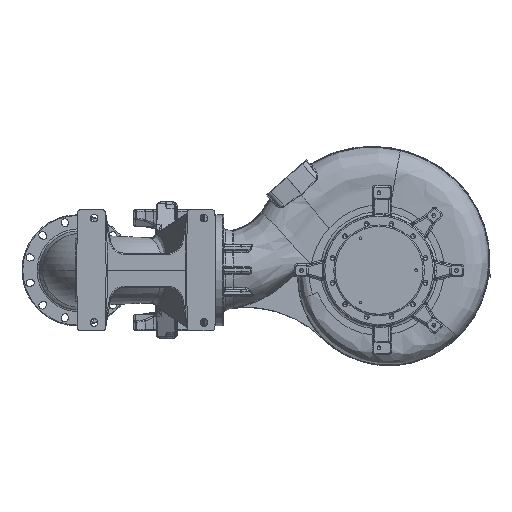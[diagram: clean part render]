
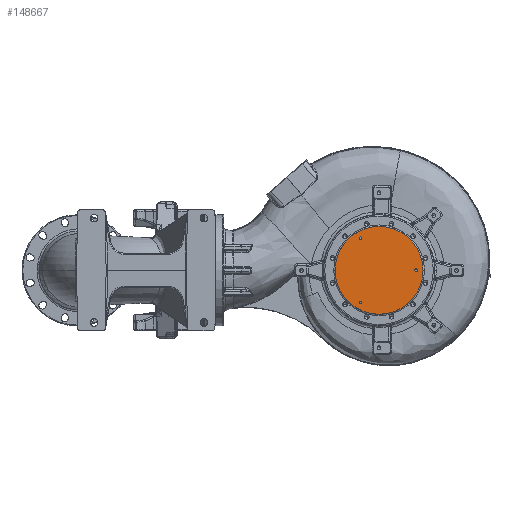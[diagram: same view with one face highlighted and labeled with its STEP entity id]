
A CAD part, front view. The second image highlights one B-rep face of the part: STEP entity #148667.
In plain terms, the highlighted planar face has unit normal (0, -1, 0).
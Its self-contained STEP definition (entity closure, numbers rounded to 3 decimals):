
#593 = DIRECTION ( 'NONE',  ( 0., -1., 0. ) ) ;
#596 = CARTESIAN_POINT ( 'NONE',  ( 527.4, 0., -116.913 ) ) ;
#4022 = CARTESIAN_POINT ( 'NONE',  ( 740.1, 0., 0. ) ) ;
#10768 = EDGE_CURVE ( 'NONE', #26830, #158697, #197989, .T. ) ;
#11552 = DIRECTION ( 'NONE',  ( -1., 0., 0. ) ) ;
#20709 = ORIENTED_EDGE ( 'NONE', *, *, #76788, .T. ) ;
#26443 = CARTESIAN_POINT ( 'NONE',  ( 600., 0., 0. ) ) ;
#26830 = VERTEX_POINT ( 'NONE', #315228 ) ;
#27140 = VERTEX_POINT ( 'NONE', #270318 ) ;
#32034 = AXIS2_PLACEMENT_3D ( 'NONE', #94625, #273206, #120336 ) ;
#34213 = CIRCLE ( 'NONE', #104488, 5.1 ) ;
#36589 = EDGE_CURVE ( 'NONE', #178365, #27140, #152255, .T. ) ;
#44359 = EDGE_CURVE ( 'NONE', #158697, #26830, #217571, .T. ) ;
#48149 = DIRECTION ( 'NONE',  ( 0., -1., 0. ) ) ;
#51990 = EDGE_CURVE ( 'NONE', #270166, #330467, #34213, .T. ) ;
#52080 = DIRECTION ( 'NONE',  ( -1., 0., 0. ) ) ;
#57575 = AXIS2_PLACEMENT_3D ( 'NONE', #73622, #252223, #99334 ) ;
#57747 = FACE_BOUND ( 'NONE', #318022, .T. ) ;
#66406 = AXIS2_PLACEMENT_3D ( 'NONE', #105113, #283750, #130832 ) ;
#73622 = CARTESIAN_POINT ( 'NONE',  ( 532.5, 0., 116.913 ) ) ;
#76788 = EDGE_CURVE ( 'NONE', #96771, #162223, #302255, .T. ) ;
#77231 = PLANE ( 'NONE',  #66406 ) ;
#79197 = AXIS2_PLACEMENT_3D ( 'NONE', #26443, #204985, #52080 ) ;
#89758 = AXIS2_PLACEMENT_3D ( 'NONE', #128315, #306978, #153930 ) ;
#89760 = DIRECTION ( 'NONE',  ( 0., -1., 0. ) ) ;
#90951 = EDGE_CURVE ( 'NONE', #330467, #270166, #186831, .T. ) ;
#94625 = CARTESIAN_POINT ( 'NONE',  ( 735., 0., 0. ) ) ;
#96342 = EDGE_LOOP ( 'NONE', ( #229126, #293645 ) ) ;
#96771 = VERTEX_POINT ( 'NONE', #155198 ) ;
#98164 = CIRCLE ( 'NONE', #79197, 160. ) ;
#99334 = DIRECTION ( 'NONE',  ( -1., 0., 0. ) ) ;
#104488 = AXIS2_PLACEMENT_3D ( 'NONE', #242734, #89760, #268398 ) ;
#105113 = CARTESIAN_POINT ( 'NONE',  ( 600., 0., 0. ) ) ;
#109224 = ORIENTED_EDGE ( 'NONE', *, *, #327248, .T. ) ;
#120336 = DIRECTION ( 'NONE',  ( -1., 0., 0. ) ) ;
#125664 = FACE_BOUND ( 'NONE', #96342, .T. ) ;
#128315 = CARTESIAN_POINT ( 'NONE',  ( 600., 0., 0. ) ) ;
#130832 = DIRECTION ( 'NONE',  ( -1., 0., 0. ) ) ;
#131649 = CIRCLE ( 'NONE', #329248, 5.1 ) ;
#148667 = ADVANCED_FACE ( 'NONE', ( #57747, #321387, #125664, #253399 ), #77231, .T. ) ;
#152255 = CIRCLE ( 'NONE', #158283, 5.1 ) ;
#153378 = CARTESIAN_POINT ( 'NONE',  ( 532.5, 0., 116.913 ) ) ;
#153930 = DIRECTION ( 'NONE',  ( -1., 0., 0. ) ) ;
#155198 = CARTESIAN_POINT ( 'NONE',  ( 440., 0., 0. ) ) ;
#155835 = CARTESIAN_POINT ( 'NONE',  ( 527.4, 0., 116.913 ) ) ;
#158283 = AXIS2_PLACEMENT_3D ( 'NONE', #201010, #48149, #226676 ) ;
#158697 = VERTEX_POINT ( 'NONE', #155835 ) ;
#162223 = VERTEX_POINT ( 'NONE', #203469 ) ;
#164401 = DIRECTION ( 'NONE',  ( 0., -1., 0. ) ) ;
#178365 = VERTEX_POINT ( 'NONE', #596 ) ;
#179062 = DIRECTION ( 'NONE',  ( -1., 0., 0. ) ) ;
#186831 = CIRCLE ( 'NONE', #32034, 5.1 ) ;
#197989 = CIRCLE ( 'NONE', #277975, 5.1 ) ;
#200614 = EDGE_CURVE ( 'NONE', #27140, #178365, #131649, .T. ) ;
#201010 = CARTESIAN_POINT ( 'NONE',  ( 532.5, 0., -116.913 ) ) ;
#201685 = ORIENTED_EDGE ( 'NONE', *, *, #36589, .F. ) ;
#203469 = CARTESIAN_POINT ( 'NONE',  ( 760., 0., 0. ) ) ;
#204985 = DIRECTION ( 'NONE',  ( 0., -1., 0. ) ) ;
#205558 = EDGE_LOOP ( 'NONE', ( #20709, #109224 ) ) ;
#215748 = EDGE_LOOP ( 'NONE', ( #310352, #263503 ) ) ;
#217571 = CIRCLE ( 'NONE', #57575, 5.1 ) ;
#226676 = DIRECTION ( 'NONE',  ( -1., 0., 0. ) ) ;
#229126 = ORIENTED_EDGE ( 'NONE', *, *, #51990, .F. ) ;
#242734 = CARTESIAN_POINT ( 'NONE',  ( 735., 0., 0. ) ) ;
#245424 = CARTESIAN_POINT ( 'NONE',  ( 729.9, 0., 0. ) ) ;
#252223 = DIRECTION ( 'NONE',  ( 0., -1., 0. ) ) ;
#253399 = FACE_OUTER_BOUND ( 'NONE', #205558, .T. ) ;
#263503 = ORIENTED_EDGE ( 'NONE', *, *, #10768, .F. ) ;
#268398 = DIRECTION ( 'NONE',  ( -1., 0., 0. ) ) ;
#270166 = VERTEX_POINT ( 'NONE', #245424 ) ;
#270318 = CARTESIAN_POINT ( 'NONE',  ( 537.6, 0., -116.913 ) ) ;
#273206 = DIRECTION ( 'NONE',  ( 0., -1., 0. ) ) ;
#277975 = AXIS2_PLACEMENT_3D ( 'NONE', #153378, #593, #179062 ) ;
#283750 = DIRECTION ( 'NONE',  ( 0., -1., 0. ) ) ;
#293537 = ORIENTED_EDGE ( 'NONE', *, *, #200614, .F. ) ;
#293645 = ORIENTED_EDGE ( 'NONE', *, *, #90951, .F. ) ;
#302255 = CIRCLE ( 'NONE', #89758, 160. ) ;
#306978 = DIRECTION ( 'NONE',  ( 0., -1., 0. ) ) ;
#310352 = ORIENTED_EDGE ( 'NONE', *, *, #44359, .F. ) ;
#315228 = CARTESIAN_POINT ( 'NONE',  ( 537.6, 0., 116.913 ) ) ;
#317443 = CARTESIAN_POINT ( 'NONE',  ( 532.5, 0., -116.913 ) ) ;
#318022 = EDGE_LOOP ( 'NONE', ( #201685, #293537 ) ) ;
#321387 = FACE_BOUND ( 'NONE', #215748, .T. ) ;
#327248 = EDGE_CURVE ( 'NONE', #162223, #96771, #98164, .T. ) ;
#329248 = AXIS2_PLACEMENT_3D ( 'NONE', #317443, #164401, #11552 ) ;
#330467 = VERTEX_POINT ( 'NONE', #4022 ) ;
